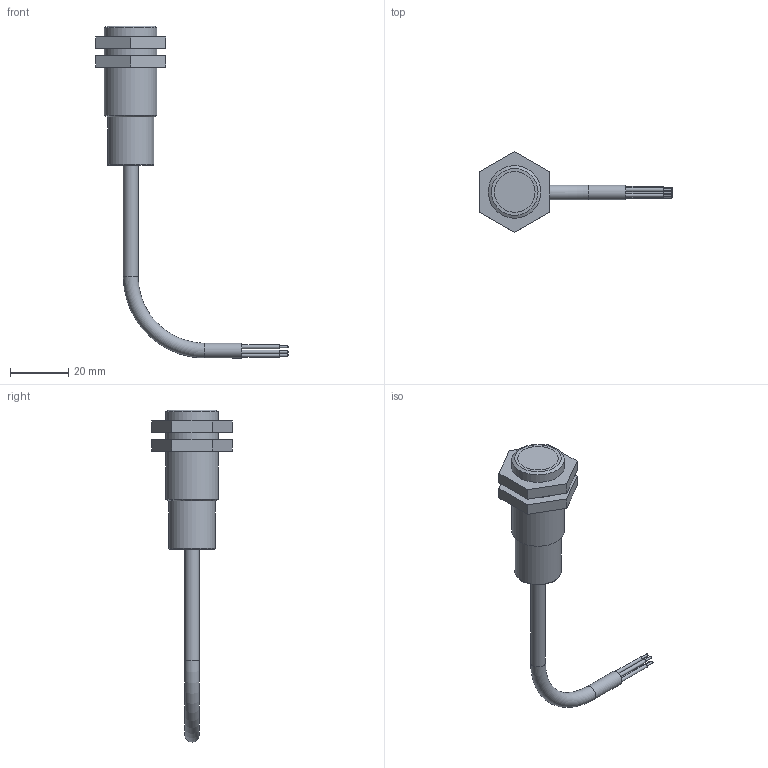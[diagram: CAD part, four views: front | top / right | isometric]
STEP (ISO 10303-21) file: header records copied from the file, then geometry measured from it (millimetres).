
FILE_DESCRIPTION((''),'2;1');
FILE_NAME('N:\JL 09\JL09018-JORAL-18MM ENCODER\Production Job Folder MM-DD-2009\JL09018-002REVA.stp','2009-05-20T08:27:05',('RDanko'),(''),'Autodesk Inventor 2008','Autodesk Inventor 2008','');
FILE_SCHEMA(('AUTOMOTIVE_DESIGN { 1 0 10303 214 1 1 1 1 }'));
Length unit declared in the file: inch
Products named in the file (5): JL09018-002; JM09018-002; M18X1 NUT; NYLON DISC; CABLE
Assembly tree (5 placements, depth 2):
  JL09018-002
    JM09018-002
    M18X1 NUT  x2
    NYLON DISC
    CABLE
Bounding box: 65.97 x 27.71 x 113.67 mm (x, y, z)
Volume: 8508.3 mm3; surface area: 9323.3 mm2
Topology: 5 solids, 5 shells, 60 faces, 108 edges, 69 vertices
Faces by surface type: plane 33, cylinder 18, bspline 5, cone 3, torus 1
Full cylindrical faces by diameter (mm): 0.762 x5, 1.27 x5, 5.08 x2, 13.919 x2, 15.875 x1, 18 x3
Entity records: 1523 total; most frequent: CARTESIAN_POINT 395, DIRECTION 214, ORIENTED_EDGE 120, AXIS2_PLACEMENT_3D 98, EDGE_LOOP 92, EDGE_CURVE 60, VERTEX_POINT 54, FACE_OUTER_BOUND 51
